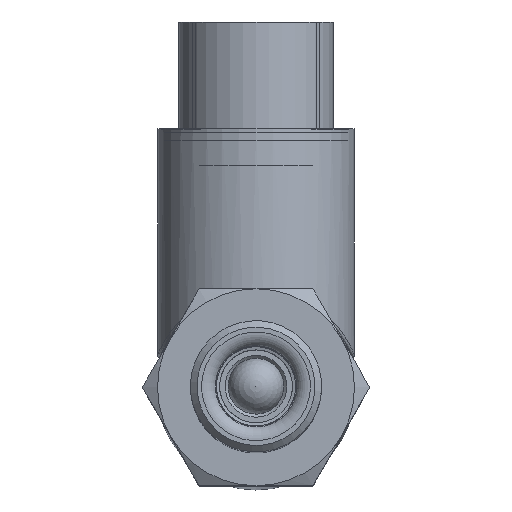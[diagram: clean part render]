
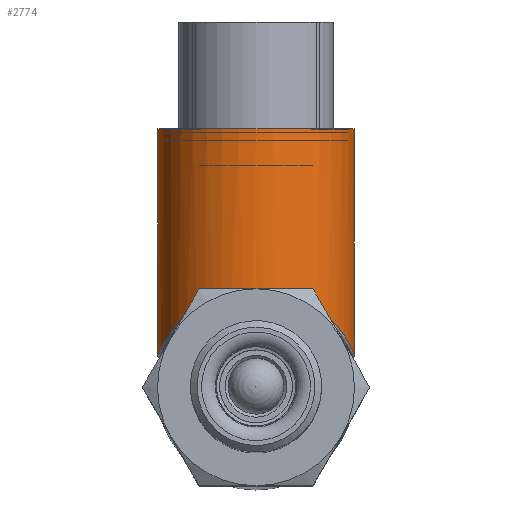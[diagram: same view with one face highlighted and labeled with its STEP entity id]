
A CAD part, top view. The second image highlights one B-rep face of the part: STEP entity #2774.
In plain terms, the highlighted cylindrical face has radius 9.525 mm (diameter 19.05 mm), a full revolution.
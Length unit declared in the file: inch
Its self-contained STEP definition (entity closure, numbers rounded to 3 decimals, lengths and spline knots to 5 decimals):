
#70=B_SPLINE_CURVE_WITH_KNOTS('',3,(#6676,#6677,#6678,#6679,#6680,#6681,
#6682,#6683,#6684,#6685,#6686,#6687,#6688,#6689,#6690,#6691,#6692,#6693,
#6694,#6695,#6696,#6697,#6698,#6699,#6700,#6701,#6702,#6703,#6704,#6705,
#6706,#6707),.UNSPECIFIED.,.F.,.F.,(4,1,1,1,1,1,1,1,1,1,1,1,1,1,1,1,1,1,
1,1,1,1,1,1,1,1,1,1,1,4),(-9.63701,-9.40756,-9.17811,
-8.7192,-8.48975,-8.41326,-8.26029,
-8.10733,-8.03084,-7.95436,-7.80139,
-7.49545,-7.18952,-6.88358,-6.57764,
-6.27171,-5.96577,-5.65983,-5.35389,-5.04796,
-4.93323,-4.81851,-4.70378,-4.58905,
-4.47433,-4.3596,-4.13015,-3.67124,
-3.44179,-3.21234),.UNSPECIFIED.);
#314=FACE_OUTER_BOUND('',#521,.T.);
#521=EDGE_LOOP('',(#1956,#1957,#1958,#1959));
#713=LINE('',#6757,#843);
#843=VECTOR('',#3698,0.375);
#1012=CIRCLE('',#3171,0.375);
#1210=VERTEX_POINT('',#6641);
#1214=VERTEX_POINT('',#6756);
#1483=EDGE_CURVE('',#1210,#1210,#70,.T.);
#1486=EDGE_CURVE('',#1214,#1210,#713,.T.);
#1487=EDGE_CURVE('',#1214,#1214,#1012,.T.);
#1956=ORIENTED_EDGE('',*,*,#1486,.F.);
#1957=ORIENTED_EDGE('',*,*,#1487,.F.);
#1958=ORIENTED_EDGE('',*,*,#1486,.T.);
#1959=ORIENTED_EDGE('',*,*,#1483,.F.);
#2491=CYLINDRICAL_SURFACE('',#3170,0.375);
#2774=ADVANCED_FACE('',(#314),#2491,.T.);
#3170=AXIS2_PLACEMENT_3D('',#6755,#3696,#3697);
#3171=AXIS2_PLACEMENT_3D('',#6758,#3699,#3700);
#3696=DIRECTION('center_axis',(0.,1.,0.));
#3697=DIRECTION('ref_axis',(0.,0.,1.));
#3698=DIRECTION('',(0.,-1.,0.));
#3699=DIRECTION('center_axis',(0.,1.,0.));
#3700=DIRECTION('ref_axis',(0.,0.,1.));
#6641=CARTESIAN_POINT('',(0.,0.3875,-4.));
#6676=CARTESIAN_POINT('Ctrl Pts',(0.,0.3875,
-4.));
#6677=CARTESIAN_POINT('Ctrl Pts',(0.03115,0.3875,
-4.));
#6678=CARTESIAN_POINT('Ctrl Pts',(0.09336,0.38033,-3.9921));
#6679=CARTESIAN_POINT('Ctrl Pts',(0.20457,0.34118,-3.94848));
#6680=CARTESIAN_POINT('Ctrl Pts',(0.28642,0.27758,-3.87625));
#6681=CARTESIAN_POINT('Ctrl Pts',(0.33103,0.21983,-3.80387));
#6682=CARTESIAN_POINT('Ctrl Pts',(0.35196,0.18625,-3.75642));
#6683=CARTESIAN_POINT('Ctrl Pts',(0.36559,0.15997,-3.71431));
#6684=CARTESIAN_POINT('Ctrl Pts',(0.37367,0.14038,-3.66654));
#6685=CARTESIAN_POINT('Ctrl Pts',(0.37544,0.1358,-3.62499));
#6686=CARTESIAN_POINT('Ctrl Pts',(0.37368,0.14036,-3.5834));
#6687=CARTESIAN_POINT('Ctrl Pts',(0.36229,0.16811,-3.51679));
#6688=CARTESIAN_POINT('Ctrl Pts',(0.32973,0.22601,-3.4372));
#6689=CARTESIAN_POINT('Ctrl Pts',(0.26717,0.29412,-3.35483));
#6690=CARTESIAN_POINT('Ctrl Pts',(0.17871,0.35265,-3.28868));
#6691=CARTESIAN_POINT('Ctrl Pts',(0.06402,0.38891,
-3.24842));
#6692=CARTESIAN_POINT('Ctrl Pts',(-0.06405,0.389,
-3.24832));
#6693=CARTESIAN_POINT('Ctrl Pts',(-0.17868,0.35264,
-3.28869));
#6694=CARTESIAN_POINT('Ctrl Pts',(-0.26718,0.29409,
-3.35482));
#6695=CARTESIAN_POINT('Ctrl Pts',(-0.32975,0.22592,
-3.43714));
#6696=CARTESIAN_POINT('Ctrl Pts',(-0.36066,0.17106,
-3.5129));
#6697=CARTESIAN_POINT('Ctrl Pts',(-0.373,0.14216,
-3.57838));
#6698=CARTESIAN_POINT('Ctrl Pts',(-0.376,0.1343,-3.62506));
#6699=CARTESIAN_POINT('Ctrl Pts',(-0.37299,0.14221,
-3.67162));
#6700=CARTESIAN_POINT('Ctrl Pts',(-0.36509,0.16058,-3.71381));
#6701=CARTESIAN_POINT('Ctrl Pts',(-0.35344,0.18352,
-3.75237));
#6702=CARTESIAN_POINT('Ctrl Pts',(-0.33325,0.21699,
-3.80027));
#6703=CARTESIAN_POINT('Ctrl Pts',(-0.28643,0.27755,
-3.8763));
#6704=CARTESIAN_POINT('Ctrl Pts',(-0.20456,0.34119,
-3.94847));
#6705=CARTESIAN_POINT('Ctrl Pts',(-0.09336,0.38032,
-3.99211));
#6706=CARTESIAN_POINT('Ctrl Pts',(-0.03115,0.3875,
-4.));
#6707=CARTESIAN_POINT('Ctrl Pts',(0.,0.3875,
-4.));
#6755=CARTESIAN_POINT('Origin',(0.,0.47,
-3.625));
#6756=CARTESIAN_POINT('',(0.,1.,-4.));
#6757=CARTESIAN_POINT('',(0.,0.47,-4.));
#6758=CARTESIAN_POINT('Origin',(0.,1.,
-3.625));
